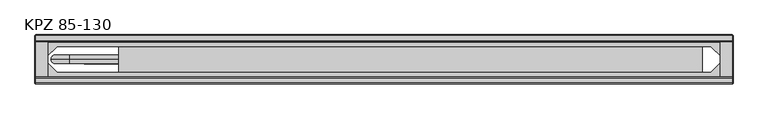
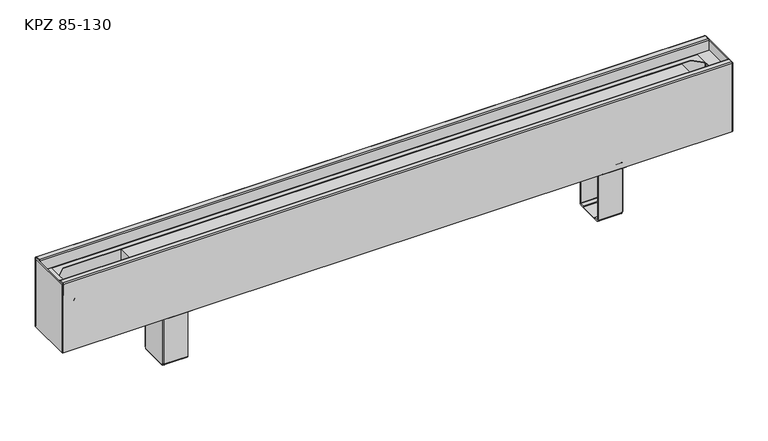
"""IFC4 building model written with IfcOpenShell, lengths in millimetres: proxy geometry, TECHNO_Конвектор напольный_Vita KPZ 85 : KPZ 85-130."""

from ifc_helpers import new_model, si_unit, point, frame, origin, place, context, project, spatial, polyline, circle_curve, ellipse_curve, trimmed, outline, extrude, source, transform, mapped, element, save
from ifc_brep_helpers import plane_surface, cylinder_surface, revolved_surface, advanced_brep


def kpz_85_130_eb719850(model_context):
    return source(origin(), model_context, "Body", "SolidModel", [
        advanced_brep(
        [(409.7, -116.8, 1.5), (409.7, -114.5, 3.8), (409.7, -114.5, 4.9), (409.7, -116.0, 4.9), (409.7, -116.0, 3.8), (409.7, -116.8, 3.0), (409.7, -124.5, 3.0), (409.7, -124.5, 1.5), (409.7, -117.6, 1.5), (409.7, -114.5, 97.7), (409.7, -113.7, 98.5), (409.7, -101.0, 98.5), (409.7, -101.0, 100.0), (409.7, -113.7, 100.0), (409.7, -116.0, 97.7), (409.7, -116.0, 95.5), (409.7, -114.5, 95.5), (409.7, -170.5, 3.8), (409.7, -168.2, 1.5), (409.7, -167.4, 1.5), (409.7, -160.5, 1.5), (409.7, -160.5, 3.0), (409.7, -168.2, 3.0), (409.7, -169.0, 3.8), (409.7, -169.0, 4.9), (409.7, -170.5, 4.9), (409.7, -169.0, 97.7), (409.7, -171.3, 100.0), (409.7, -184.0, 100.0), (409.7, -184.0, 98.5), (409.7, -171.3, 98.5), (409.7, -170.5, 97.7), (409.7, -170.5, 95.5), (409.7, -169.0, 95.5), (367.0, -170.5, 97.7), (367.0, -171.3, 98.5), (367.0, -184.0, 98.5), (367.0, -184.0, 100.0), (367.0, -171.3, 100.0), (367.0, -169.0, 97.7), (367.0, -169.0, 3.8), (367.0, -168.2, 3.0), (367.0, -160.5, 3.0), (367.0, -160.5, 1.5), (367.0, -124.5, 1.5), (367.0, -124.5, 3.0), (367.0, -116.8, 3.0), (367.0, -116.0, 3.8), (367.0, -116.0, 97.7), (367.0, -113.7, 100.0), (367.0, -101.0, 100.0), (367.0, -101.0, 98.5), (367.0, -113.7, 98.5), (367.0, -114.5, 97.7), (367.0, -114.5, 3.8), (367.0, -116.8, 1.5), (367.0, -117.6, 1.5), (367.0, -117.6, 0.0), (367.0, -167.4, 0.0), (367.0, -167.4, 1.5), (367.0, -168.2, 1.5), (367.0, -170.5, 3.8), (410.5, -116.8, 95.5), (410.5, -168.2, 95.5), (412.0, -168.2, 95.5), (412.0, -116.8, 95.5), (412.0, -116.8, 4.9), (412.0, -117.6, 4.9), (410.5, -117.6, 4.9), (410.5, -116.8, 4.9), (410.5, -168.2, 4.9), (410.5, -167.4, 4.9), (412.0, -167.4, 4.9), (412.0, -168.2, 4.9), (410.5, -117.6, 2.3), (410.5, -167.4, 2.3), (412.0, -167.4, 2.3), (412.0, -117.6, 2.3), (409.7, -117.6, 0.0), (409.7, -167.4, 0.0)],
        [
            (0, 1, circle_curve(frame((409.7, -116.8, 3.8), z_axis=(1.0, 0.0, 0.0), x_axis=(0.0, -1.0, 0.0)), 2.3)),
            (1, 2),
            (2, 3),
            (3, 4),
            (4, 5, circle_curve(frame((409.7, -116.8, 3.8), z_axis=(-1.0, 0.0, 0.0), x_axis=(0.0, -1.0, 0.0)), 0.8)),
            (5, 6),
            (6, 7),
            (7, 8),
            (8, 0),
            (9, 10, circle_curve(frame((409.7, -113.7, 97.7), z_axis=(-1.0, 0.0, 0.0), x_axis=(0.0, -1.0, 0.0)), 0.8)),
            (10, 11),
            (11, 12),
            (12, 13),
            (13, 14, circle_curve(frame((409.7, -113.7, 97.7), z_axis=(1.0, 0.0, 0.0), x_axis=(0.0, -1.0, 0.0)), 2.3)),
            (14, 15),
            (15, 16),
            (16, 9),
            (17, 18, circle_curve(frame((409.7, -168.2, 3.8), z_axis=(1.0, 0.0, 0.0), x_axis=(0.0, -1.0, 0.0)), 2.3)),
            (18, 19),
            (19, 20),
            (20, 21),
            (21, 22),
            (22, 23, circle_curve(frame((409.7, -168.2, 3.8), z_axis=(-1.0, 0.0, 0.0), x_axis=(0.0, -1.0, 0.0)), 0.8)),
            (23, 24),
            (24, 25),
            (25, 17),
            (26, 27, circle_curve(frame((409.7, -171.3, 97.7), z_axis=(1.0, 0.0, 0.0), x_axis=(0.0, -1.0, 0.0)), 2.3)),
            (27, 28),
            (28, 29),
            (29, 30),
            (30, 31, circle_curve(frame((409.7, -171.3, 97.7), z_axis=(-1.0, 0.0, 0.0), x_axis=(0.0, -1.0, 0.0)), 0.8)),
            (31, 32),
            (32, 33),
            (33, 26),
            (34, 35, circle_curve(frame((367.0, -171.3, 97.7), z_axis=(1.0, 0.0, 0.0), x_axis=(0.0, -1.0, 0.0)), 0.8)),
            (35, 36),
            (36, 37),
            (37, 38),
            (38, 39, circle_curve(frame((367.0, -171.3, 97.7), z_axis=(-1.0, 0.0, 0.0), x_axis=(0.0, -1.0, 0.0)), 2.3)),
            (39, 40),
            (40, 41, circle_curve(frame((367.0, -168.2, 3.8), z_axis=(1.0, 0.0, 0.0), x_axis=(0.0, -1.0, 0.0)), 0.8)),
            (41, 42),
            (42, 43),
            (43, 44),
            (44, 45),
            (45, 46),
            (46, 47, circle_curve(frame((367.0, -116.8, 3.8), z_axis=(1.0, 0.0, 0.0), x_axis=(0.0, -1.0, 0.0)), 0.8)),
            (47, 48),
            (48, 49, circle_curve(frame((367.0, -113.7, 97.7), z_axis=(-1.0, 0.0, 0.0), x_axis=(0.0, -1.0, 0.0)), 2.3)),
            (49, 50),
            (50, 51),
            (51, 52),
            (52, 53, circle_curve(frame((367.0, -113.7, 97.7), z_axis=(1.0, 0.0, 0.0), x_axis=(0.0, -1.0, 0.0)), 0.8)),
            (53, 54),
            (54, 55, circle_curve(frame((367.0, -116.8, 3.8), z_axis=(-1.0, 0.0, 0.0), x_axis=(0.0, -1.0, 0.0)), 2.3)),
            (55, 56),
            (56, 57),
            (57, 58),
            (58, 59),
            (59, 60),
            (60, 61, circle_curve(frame((367.0, -168.2, 3.8), z_axis=(-1.0, 0.0, 0.0), x_axis=(0.0, -1.0, 0.0)), 2.3)),
            (61, 34),
            (30, 35),
            (34, 31),
            (29, 36),
            (28, 37),
            (27, 38),
            (26, 39),
            (33, 24),
            (23, 40),
            (22, 41),
            (5, 46),
            (45, 6),
            (4, 47),
            (3, 15),
            (14, 48),
            (13, 49),
            (12, 50),
            (11, 51),
            (10, 52),
            (9, 53),
            (16, 2),
            (1, 54),
            (0, 55),
            (8, 56),
            (17, 61),
            (60, 18),
            (25, 32),
            (21, 42),
            (20, 43),
            (59, 19),
            (44, 7),
            (15, 62, circle_curve(frame((409.7, -116.8, 95.5), z_axis=(0.0, 0.0, -1.0), x_axis=(-1.0, 0.0, 0.0)), 0.8)),
            (62, 63),
            (63, 33, circle_curve(frame((409.7, -168.2, 95.5), z_axis=(0.0, 0.0, -1.0), x_axis=(-1.0, 0.0, 0.0)), 0.8)),
            (32, 64, circle_curve(frame((409.7, -168.2, 95.5), z_axis=(0.0, 0.0, 1.0), x_axis=(-1.0, 0.0, 0.0)), 2.3)),
            (64, 65),
            (65, 16, circle_curve(frame((409.7, -116.8, 95.5), z_axis=(0.0, 0.0, 1.0), x_axis=(-1.0, 0.0, 0.0)), 2.3)),
            (2, 66, circle_curve(frame((409.7, -116.8, 4.9), z_axis=(0.0, 0.0, -1.0), x_axis=(-1.0, 0.0, 0.0)), 2.3)),
            (66, 67),
            (67, 68),
            (68, 69),
            (69, 3, circle_curve(frame((409.7, -116.8, 4.9), z_axis=(0.0, 0.0, 1.0), x_axis=(-1.0, 0.0, 0.0)), 0.8)),
            (24, 70, circle_curve(frame((409.7, -168.2, 4.9), z_axis=(0.0, 0.0, 1.0), x_axis=(-1.0, 0.0, 0.0)), 0.8)),
            (70, 71),
            (71, 72),
            (72, 73),
            (73, 25, circle_curve(frame((409.7, -168.2, 4.9), z_axis=(0.0, 0.0, -1.0), x_axis=(-1.0, 0.0, 0.0)), 2.3)),
            (69, 62),
            (68, 74),
            (74, 75),
            (75, 71),
            (70, 63),
            (64, 73),
            (72, 76),
            (76, 77),
            (77, 67),
            (66, 65),
            (8, 74, circle_curve(frame((409.7, -117.6, 2.3), z_axis=(0.0, -1.0, 0.0), x_axis=(-1.0, 0.0, 0.0)), 0.8)),
            (77, 78, circle_curve(frame((409.7, -117.6, 2.3), z_axis=(0.0, 1.0, 0.0), x_axis=(-1.0, 0.0, 0.0)), 2.3)),
            (78, 57),
            (58, 79),
            (79, 76, circle_curve(frame((409.7, -167.4, 2.3), z_axis=(0.0, -1.0, 0.0), x_axis=(-1.0, 0.0, 0.0)), 2.3)),
            (75, 19, circle_curve(frame((409.7, -167.4, 2.3), z_axis=(0.0, 1.0, 0.0), x_axis=(-1.0, 0.0, 0.0)), 0.8)),
            (20, 7),
            (79, 78),
        ],
        [
            plane_surface(frame((409.7, -172.1, 97.7), z_axis=(1.0, 0.0, 0.0), x_axis=(0.0, 0.0, 1.0))),
            plane_surface(frame((367.0, -172.1, 97.7), z_axis=(-1.0, 0.0, 0.0), x_axis=(0.0, 0.0, -1.0))),
            revolved_surface(polyline([(409.7, -172.10000000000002, 97.7), (367.0, -172.10000000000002, 97.7)]), (409.7, -171.3, 97.7), (1.0, 0.0, 0.0)),
            plane_surface(frame((367.0, -171.3, 98.5), z_axis=(0.0, 0.0, -1.0), x_axis=(1.0, 0.0, 0.0))),
            plane_surface(frame((367.0, -184.0, 98.5), z_axis=(0.0, -1.0, 0.0), x_axis=(1.0, 0.0, 0.0))),
            plane_surface(frame((367.0, -184.0, 100.0), z_axis=(0.0, 0.0, 1.0), x_axis=(1.0, 0.0, 0.0))),
            cylinder_surface(frame((409.7, -171.3, 97.7), z_axis=(-1.0, 0.0, 0.0), x_axis=(0.0, -1.0, 0.0)), 2.3),
            plane_surface(frame((367.0, -169.0, 97.7), z_axis=(0.0, 1.0, 3.6919938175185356e-12), x_axis=(1.0, 0.0, 0.0))),
            revolved_surface(polyline([(409.7, -169.0, 3.8), (367.0, -169.0, 3.8)]), (409.7, -168.2, 3.8), (1.0, 0.0, 0.0)),
            plane_surface(frame((367.0, -124.5, 3.0), z_axis=(0.0, 0.0, 1.0), x_axis=(1.0, 0.0, 0.0))),
            revolved_surface(polyline([(409.7, -117.6, 3.8), (367.0, -117.6, 3.8)]), (412.0, -116.8, 3.8), (1.0, 0.0, 0.0)),
            plane_surface(frame((367.0, -116.0, 3.8), z_axis=(0.0, -1.0, 0.0), x_axis=(1.0, 0.0, 0.0))),
            cylinder_surface(frame((412.0, -113.7, 97.7), z_axis=(-1.0, 0.0, 0.0), x_axis=(0.0, -1.0, 0.0)), 2.3),
            plane_surface(frame((367.0, -113.7, 100.0), z_axis=(0.0, 0.0, 1.0), x_axis=(1.0, 0.0, 0.0))),
            plane_surface(frame((367.0, -101.0, 100.0), z_axis=(0.0, 1.0, 0.0), x_axis=(1.0, 0.0, 0.0))),
            plane_surface(frame((367.0, -101.0, 98.5), z_axis=(0.0, 0.0, -1.0), x_axis=(1.0, 0.0, 0.0))),
            revolved_surface(polyline([(409.7, -114.5, 97.7), (367.0, -114.5, 97.7)]), (412.0, -113.7, 97.7), (1.0, 0.0, 0.0)),
            plane_surface(frame((367.0, -114.5, 97.7), z_axis=(0.0, 1.0, 0.0), x_axis=(1.0, 0.0, 0.0))),
            cylinder_surface(frame((412.0, -116.8, 3.8), z_axis=(-1.0, 0.0, 0.0), x_axis=(0.0, -1.0, 0.0)), 2.3),
            plane_surface(frame((367.0, -116.8, 1.5), z_axis=(0.0, 0.0, -1.0), x_axis=(1.0, 0.0, 0.0))),
            cylinder_surface(frame((409.7, -168.2, 3.8), z_axis=(-1.0, 0.0, 0.0), x_axis=(0.0, -1.0, 0.0)), 2.3),
            plane_surface(frame((367.0, -170.5, 3.8), z_axis=(0.0, -1.0, 0.0), x_axis=(1.0, 0.0, 0.0))),
            plane_surface(frame((367.0, -168.2, 3.0), z_axis=(0.0, 0.0, 1.0), x_axis=(1.0, 0.0, 0.0))),
            plane_surface(frame((367.0, -160.5, 3.0), z_axis=(0.0, 1.0, 0.0), x_axis=(1.0, 0.0, 0.0))),
            plane_surface(frame((367.0, -160.5, 1.5), z_axis=(0.0, 0.0, -1.0), x_axis=(1.0, 0.0, 0.0))),
            plane_surface(frame((367.0, -124.5, 1.5), z_axis=(0.0, -1.0, 0.0), x_axis=(1.0, 0.0, 0.0))),
            plane_surface(frame((409.7, -116.0, 95.5), z_axis=(0.0, 0.0, 1.0), x_axis=(0.0, -1.0, 0.0))),
            plane_surface(frame((409.7, -116.0, 4.9), z_axis=(0.0, 0.0, -1.0), x_axis=(0.0, 1.0, 0.0))),
            revolved_surface(polyline([(408.9, -116.8, 4.9), (408.9, -116.8, 95.5)]), (409.7, -116.8, 4.9), (0.0, 0.0, -1.0)),
            plane_surface(frame((410.5, -116.8, 95.5), z_axis=(-1.0, 0.0, 0.0), x_axis=(0.0, 0.0, -1.0))),
            plane_surface(frame((412.0, -117.6, 95.5), z_axis=(1.0, -4.3226800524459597e-10, 0.0), x_axis=(0.0, 0.0, -1.0))),
            cylinder_surface(frame((409.7, -116.8, 4.9), z_axis=(0.0, 0.0, 1.0), x_axis=(-1.0, 0.0, 0.0)), 2.3),
            cylinder_surface(frame((409.7, -168.2, 0.0), z_axis=(0.0, 0.0, 1.0), x_axis=(-1.0, 0.0, 0.0)), 2.3),
            revolved_surface(polyline([(408.9, -168.2, 4.9), (408.9, -168.2, 95.5)]), (409.7, -168.2, 0.0), (0.0, 0.0, -1.0)),
            plane_surface(frame((367.0, -117.6, 1.5), z_axis=(0.0, 1.0, 0.0), x_axis=(0.0, 0.0, 1.0))),
            plane_surface(frame((367.0, -167.4, 1.5), z_axis=(0.0, -1.0, 0.0), x_axis=(0.0, 0.0, -1.0))),
            plane_surface(frame((367.0, -117.6, 1.5), z_axis=(0.0, 0.0, 1.0), x_axis=(0.0, -1.0, 0.0))),
            revolved_surface(polyline([(408.9, -167.4, 2.3), (408.9, -117.6, 2.3)]), (409.7, -167.4, 2.3), (0.0, -1.0, 0.0)),
            cylinder_surface(frame((409.7, -167.4, 2.3), z_axis=(0.0, 1.0, 0.0), x_axis=(-1.0, 0.0, 0.0)), 2.3),
            plane_surface(frame((409.7, -117.6, 0.0), z_axis=(0.0, 0.0, -1.0), x_axis=(0.0, -1.0, 0.0))),
        ],
        [
            (0, [[1, 2, 3, 4, 5, 6, 7, 8, 9]]),
            (0, [[10, 11, 12, 13, 14, 15, 16, 17]]),
            (0, [[18, 19, 20, 21, 22, 23, 24, 25, 26]]),
            (0, [[27, 28, 29, 30, 31, 32, 33, 34]]),
            (1, [[35, 36, 37, 38, 39, 40, 41, 42, 43, 44, 45, 46, 47, 48, 49, 50, 51, 52, 53, 54, 55, 56, 57, 58, 59, 60, 61, 62]]),
            (2, [[-31, 63, -35, 64]]),
            (3, [[-30, 65, -36, -63]]),
            (4, [[-29, 66, -37, -65]]),
            (5, [[-28, 67, -38, -66]]),
            (6, [[-27, 68, -39, -67]]),
            (7, [[-40, -68, -34, 69, -24, 70]]),
            (8, [[-23, 71, -41, -70]]),
            (9, [[-6, 72, -46, 73]]),
            (10, [[-5, 74, -47, -72]]),
            (11, [[-48, -74, -4, 75, -15, 76]]),
            (12, [[-14, 77, -49, -76]]),
            (13, [[-13, 78, -50, -77]]),
            (14, [[-12, 79, -51, -78]]),
            (15, [[-11, 80, -52, -79]]),
            (16, [[-10, 81, -53, -80]]),
            (17, [[-54, -81, -17, 82, -2, 83]]),
            (18, [[-1, 84, -55, -83]]),
            (19, [[-84, -9, 85, -56]]),
            (20, [[-18, 86, -61, 87]]),
            (21, [[-62, -86, -26, 88, -32, -64]]),
            (22, [[-22, 89, -42, -71]]),
            (23, [[-21, 90, -43, -89]]),
            (24, [[-87, -60, 91, -19]]),
            (25, [[-7, -73, -45, 92]]),
            (26, [[93, 94, 95, -33, 96, 97, 98, -16]]),
            (27, [[99, 100, 101, 102, 103, -3]]),
            (27, [[104, 105, 106, 107, 108, -25]]),
            (28, [[-93, -75, -103, 109]]),
            (29, [[-94, -109, -102, 110, 111, 112, -105, 113]]),
            (30, [[-97, 114, -107, 115, 116, 117, -100, 118]]),
            (31, [[-98, -118, -99, -82]]),
            (32, [[-96, -88, -108, -114]]),
            (33, [[-95, -113, -104, -69]]),
            (34, [[-57, -85, 119, -110, -101, -117, 120, 121]]),
            (35, [[122, 123, -115, -106, -112, 124, -91, -59]]),
            (36, [[125, -92, -44, -90]]),
            (37, [[-119, -8, -125, -20, -124, -111]]),
            (38, [[-120, -116, -123, 126]]),
            (39, [[-121, -126, -122, -58]]),
        ],
    ),
        advanced_brep(
        [(-409.7, -168.2, 1.5), (-409.7, -170.5, 3.8), (-409.7, -170.5, 4.9), (-409.7, -169.0, 4.9), (-409.7, -169.0, 3.8), (-409.7, -168.2, 3.0), (-409.7, -160.5, 3.0), (-409.7, -160.5, 1.5), (-409.7, -167.4, 1.5), (-409.7, -170.5, 97.7), (-409.7, -171.3, 98.5), (-409.7, -184.0, 98.5), (-409.7, -184.0, 100.0), (-409.7, -171.3, 100.0), (-409.7, -169.0, 97.7), (-409.7, -169.0, 95.5), (-409.7, -170.5, 95.5), (-409.7, -114.5, 3.8), (-409.7, -116.8, 1.5), (-409.7, -117.6, 1.5), (-409.7, -124.5, 1.5), (-409.7, -124.5, 3.0), (-409.7, -116.8, 3.0), (-409.7, -116.0, 3.8), (-409.7, -116.0, 4.9), (-409.7, -114.5, 4.9), (-409.7, -116.0, 97.7), (-409.7, -113.7, 100.0), (-409.7, -101.0, 100.0), (-409.7, -101.0, 98.5), (-409.7, -113.7, 98.5), (-409.7, -114.5, 97.7), (-409.7, -114.5, 95.5), (-409.7, -116.0, 95.5), (-367.0, -114.5, 97.7), (-367.0, -113.7, 98.5), (-367.0, -101.0, 98.5), (-367.0, -101.0, 100.0), (-367.0, -113.7, 100.0), (-367.0, -116.0, 97.7), (-367.0, -116.0, 3.8), (-367.0, -116.8, 3.0), (-367.0, -124.5, 3.0), (-367.0, -124.5, 1.5), (-367.0, -160.5, 1.5), (-367.0, -160.5, 3.0), (-367.0, -168.2, 3.0), (-367.0, -169.0, 3.8), (-367.0, -169.0, 97.7), (-367.0, -171.3, 100.0), (-367.0, -184.0, 100.0), (-367.0, -184.0, 98.5), (-367.0, -171.3, 98.5), (-367.0, -170.5, 97.7), (-367.0, -170.5, 3.8), (-367.0, -168.2, 1.5), (-367.0, -167.4, 1.5), (-367.0, -167.4, 0.0), (-367.0, -117.6, 0.0), (-367.0, -117.6, 1.5), (-367.0, -116.8, 1.5), (-367.0, -114.5, 3.8), (-410.5, -168.2, 95.5), (-410.5, -116.8, 95.5), (-412.0, -116.8, 95.5), (-412.0, -168.2, 95.5), (-412.0, -168.2, 4.9), (-412.0, -167.4, 4.9), (-410.5, -167.4, 4.9), (-410.5, -168.2, 4.9), (-410.5, -116.8, 4.9), (-410.5, -117.6, 4.9), (-412.0, -117.6, 4.9), (-412.0, -116.8, 4.9), (-410.5, -167.4, 2.3), (-410.5, -117.6, 2.3), (-412.0, -117.6, 2.3), (-412.0, -167.4, 2.3), (-409.7, -167.4, 0.0), (-409.7, -117.6, 0.0)],
        [
            (0, 1, circle_curve(frame((-409.7, -168.2, 3.8), z_axis=(-1.0, 0.0, 0.0), x_axis=(0.0, 1.0, 0.0)), 2.3)),
            (1, 2),
            (2, 3),
            (3, 4),
            (4, 5, circle_curve(frame((-409.7, -168.2, 3.8), z_axis=(1.0, 0.0, 0.0), x_axis=(0.0, 1.0, 0.0)), 0.8)),
            (5, 6),
            (6, 7),
            (7, 8),
            (8, 0),
            (9, 10, circle_curve(frame((-409.7, -171.3, 97.7), z_axis=(1.0, 0.0, 0.0), x_axis=(0.0, 1.0, 0.0)), 0.8)),
            (10, 11),
            (11, 12),
            (12, 13),
            (13, 14, circle_curve(frame((-409.7, -171.3, 97.7), z_axis=(-1.0, 0.0, 0.0), x_axis=(0.0, 1.0, 0.0)), 2.3)),
            (14, 15),
            (15, 16),
            (16, 9),
            (17, 18, circle_curve(frame((-409.7, -116.8, 3.8), z_axis=(-1.0, 0.0, 0.0), x_axis=(0.0, 1.0, 0.0)), 2.3)),
            (18, 19),
            (19, 20),
            (20, 21),
            (21, 22),
            (22, 23, circle_curve(frame((-409.7, -116.8, 3.8), z_axis=(1.0, 0.0, 0.0), x_axis=(0.0, 1.0, 0.0)), 0.8)),
            (23, 24),
            (24, 25),
            (25, 17),
            (26, 27, circle_curve(frame((-409.7, -113.7, 97.7), z_axis=(-1.0, 0.0, 0.0), x_axis=(0.0, 1.0, 0.0)), 2.3)),
            (27, 28),
            (28, 29),
            (29, 30),
            (30, 31, circle_curve(frame((-409.7, -113.7, 97.7), z_axis=(1.0, 0.0, 0.0), x_axis=(0.0, 1.0, 0.0)), 0.8)),
            (31, 32),
            (32, 33),
            (33, 26),
            (34, 35, circle_curve(frame((-367.0, -113.7, 97.7), z_axis=(-1.0, 0.0, 0.0), x_axis=(0.0, 1.0, 0.0)), 0.8)),
            (35, 36),
            (36, 37),
            (37, 38),
            (38, 39, circle_curve(frame((-367.0, -113.7, 97.7), z_axis=(1.0, 0.0, 0.0), x_axis=(0.0, 1.0, 0.0)), 2.3)),
            (39, 40),
            (40, 41, circle_curve(frame((-367.0, -116.8, 3.8), z_axis=(-1.0, 0.0, 0.0), x_axis=(0.0, 1.0, 0.0)), 0.8)),
            (41, 42),
            (42, 43),
            (43, 44),
            (44, 45),
            (45, 46),
            (46, 47, circle_curve(frame((-367.0, -168.2, 3.8), z_axis=(-1.0, 0.0, 0.0), x_axis=(0.0, 1.0, 0.0)), 0.8)),
            (47, 48),
            (48, 49, circle_curve(frame((-367.0, -171.3, 97.7), z_axis=(1.0, 0.0, 0.0), x_axis=(0.0, 1.0, 0.0)), 2.3)),
            (49, 50),
            (50, 51),
            (51, 52),
            (52, 53, circle_curve(frame((-367.0, -171.3, 97.7), z_axis=(-1.0, 0.0, 0.0), x_axis=(0.0, 1.0, 0.0)), 0.8)),
            (53, 54),
            (54, 55, circle_curve(frame((-367.0, -168.2, 3.8), z_axis=(1.0, 0.0, 0.0), x_axis=(0.0, 1.0, 0.0)), 2.3)),
            (55, 56),
            (56, 57),
            (57, 58),
            (58, 59),
            (59, 60),
            (60, 61, circle_curve(frame((-367.0, -116.8, 3.8), z_axis=(1.0, 0.0, 0.0), x_axis=(0.0, 1.0, 0.0)), 2.3)),
            (61, 34),
            (30, 35),
            (34, 31),
            (29, 36),
            (28, 37),
            (27, 38),
            (26, 39),
            (33, 24),
            (23, 40),
            (22, 41),
            (5, 46),
            (45, 6),
            (4, 47),
            (3, 15),
            (14, 48),
            (13, 49),
            (12, 50),
            (11, 51),
            (10, 52),
            (9, 53),
            (16, 2),
            (1, 54),
            (0, 55),
            (8, 56),
            (17, 61),
            (60, 18),
            (25, 32),
            (21, 42),
            (20, 43),
            (59, 19),
            (44, 7),
            (15, 62, circle_curve(frame((-409.7, -168.2, 95.5), z_axis=(0.0, 0.0, -1.0), x_axis=(1.0, 0.0, 0.0)), 0.8)),
            (62, 63),
            (63, 33, circle_curve(frame((-409.7, -116.8, 95.5), z_axis=(0.0, 0.0, -1.0), x_axis=(1.0, 0.0, 0.0)), 0.8)),
            (32, 64, circle_curve(frame((-409.7, -116.8, 95.5), z_axis=(0.0, 0.0, 1.0), x_axis=(1.0, 0.0, 0.0)), 2.3)),
            (64, 65),
            (65, 16, circle_curve(frame((-409.7, -168.2, 95.5), z_axis=(0.0, 0.0, 1.0), x_axis=(1.0, 0.0, 0.0)), 2.3)),
            (2, 66, circle_curve(frame((-409.7, -168.2, 4.9), z_axis=(0.0, 0.0, -1.0), x_axis=(1.0, 0.0, 0.0)), 2.3)),
            (66, 67),
            (67, 68),
            (68, 69),
            (69, 3, circle_curve(frame((-409.7, -168.2, 4.9), z_axis=(0.0, 0.0, 1.0), x_axis=(1.0, 0.0, 0.0)), 0.8)),
            (24, 70, circle_curve(frame((-409.7, -116.8, 4.9), z_axis=(0.0, 0.0, 1.0), x_axis=(1.0, 0.0, 0.0)), 0.8)),
            (70, 71),
            (71, 72),
            (72, 73),
            (73, 25, circle_curve(frame((-409.7, -116.8, 4.9), z_axis=(0.0, 0.0, -1.0), x_axis=(1.0, 0.0, 0.0)), 2.3)),
            (69, 62),
            (68, 74),
            (74, 75),
            (75, 71),
            (70, 63),
            (64, 73),
            (72, 76),
            (76, 77),
            (77, 67),
            (66, 65),
            (8, 74, circle_curve(frame((-409.7, -167.4, 2.3), z_axis=(0.0, 1.0, 0.0), x_axis=(1.0, 0.0, 0.0)), 0.8)),
            (77, 78, circle_curve(frame((-409.7, -167.4, 2.3), z_axis=(0.0, -1.0, 0.0), x_axis=(1.0, 0.0, 0.0)), 2.3)),
            (78, 57),
            (58, 79),
            (79, 76, circle_curve(frame((-409.7, -117.6, 2.3), z_axis=(0.0, 1.0, 0.0), x_axis=(1.0, 0.0, 0.0)), 2.3)),
            (75, 19, circle_curve(frame((-409.7, -117.6, 2.3), z_axis=(0.0, -1.0, 0.0), x_axis=(1.0, 0.0, 0.0)), 0.8)),
            (20, 7),
            (79, 78),
        ],
        [
            plane_surface(frame((-409.7, -112.9, 97.7), z_axis=(-1.0, 0.0, 0.0), x_axis=(0.0, 0.0, 1.0))),
            plane_surface(frame((-367.0, -112.9, 97.7), z_axis=(1.0, 0.0, 0.0), x_axis=(0.0, 0.0, -1.0))),
            revolved_surface(polyline([(-409.7, -112.9, 97.7), (-367.0, -112.9, 97.7)]), (-409.7, -113.7, 97.7), (-1.0, 0.0, 0.0)),
            plane_surface(frame((-367.0, -113.7, 98.5), z_axis=(0.0, 0.0, -1.0), x_axis=(-1.0, 0.0, 0.0))),
            plane_surface(frame((-367.0, -101.0, 98.5), z_axis=(0.0, 1.0, 0.0), x_axis=(-1.0, 0.0, 0.0))),
            plane_surface(frame((-367.0, -101.0, 100.0), z_axis=(0.0, 0.0, 1.0), x_axis=(-1.0, 0.0, 0.0))),
            cylinder_surface(frame((-409.7, -113.7, 97.7), z_axis=(1.0, 0.0, 0.0), x_axis=(0.0, 1.0, 0.0)), 2.3),
            plane_surface(frame((-367.0, -116.0, 97.7), z_axis=(0.0, -1.0, 3.6919938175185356e-12), x_axis=(-1.0, 0.0, 0.0))),
            revolved_surface(polyline([(-409.7, -116.0, 3.8), (-367.0, -116.0, 3.8)]), (-409.7, -116.8, 3.8), (-1.0, 0.0, 0.0)),
            plane_surface(frame((-367.0, -160.5, 3.0), z_axis=(0.0, 0.0, 1.0), x_axis=(-1.0, 0.0, 0.0))),
            revolved_surface(polyline([(-409.7, -167.39999999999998, 3.8), (-367.0, -167.39999999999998, 3.8)]), (-412.0, -168.2, 3.8), (-1.0, 0.0, 0.0)),
            plane_surface(frame((-367.0, -169.0, 3.8), z_axis=(0.0, 1.0, 0.0), x_axis=(-1.0, 0.0, 0.0))),
            cylinder_surface(frame((-412.0, -171.3, 97.7), z_axis=(1.0, 0.0, 0.0), x_axis=(0.0, 1.0, 0.0)), 2.3),
            plane_surface(frame((-367.0, -171.3, 100.0), z_axis=(0.0, 0.0, 1.0), x_axis=(-1.0, 0.0, 0.0))),
            plane_surface(frame((-367.0, -184.0, 100.0), z_axis=(0.0, -1.0, 0.0), x_axis=(-1.0, 0.0, 0.0))),
            plane_surface(frame((-367.0, -184.0, 98.5), z_axis=(0.0, 0.0, -1.0), x_axis=(-1.0, 0.0, 0.0))),
            revolved_surface(polyline([(-409.7, -170.5, 97.7), (-367.0, -170.5, 97.7)]), (-412.0, -171.3, 97.7), (-1.0, 0.0, 0.0)),
            plane_surface(frame((-367.0, -170.5, 97.7), z_axis=(0.0, -1.0, 0.0), x_axis=(-1.0, 0.0, 0.0))),
            cylinder_surface(frame((-412.0, -168.2, 3.8), z_axis=(1.0, 0.0, 0.0), x_axis=(0.0, 1.0, 0.0)), 2.3),
            plane_surface(frame((-367.0, -168.2, 1.5), z_axis=(0.0, 0.0, -1.0), x_axis=(-1.0, 0.0, 0.0))),
            cylinder_surface(frame((-409.7, -116.8, 3.8), z_axis=(1.0, 0.0, 0.0), x_axis=(0.0, 1.0, 0.0)), 2.3),
            plane_surface(frame((-367.0, -114.5, 3.8), z_axis=(0.0, 1.0, 0.0), x_axis=(-1.0, 0.0, 0.0))),
            plane_surface(frame((-367.0, -116.8, 3.0), z_axis=(0.0, 0.0, 1.0), x_axis=(-1.0, 0.0, 0.0))),
            plane_surface(frame((-367.0, -124.5, 3.0), z_axis=(0.0, -1.0, 0.0), x_axis=(-1.0, 0.0, 0.0))),
            plane_surface(frame((-367.0, -124.5, 1.5), z_axis=(0.0, 0.0, -1.0), x_axis=(-1.0, 0.0, 0.0))),
            plane_surface(frame((-367.0, -160.5, 1.5), z_axis=(0.0, 1.0, 0.0), x_axis=(-1.0, 0.0, 0.0))),
            plane_surface(frame((-409.7, -169.0, 95.5), z_axis=(0.0, 0.0, 1.0), x_axis=(0.0, 1.0, 0.0))),
            plane_surface(frame((-409.7, -169.0, 4.9), z_axis=(0.0, 0.0, -1.0), x_axis=(0.0, -1.0, 0.0))),
            revolved_surface(polyline([(-408.9, -168.2, 4.9), (-408.9, -168.2, 95.5)]), (-409.7, -168.2, 4.9), (0.0, 0.0, -1.0)),
            plane_surface(frame((-410.5, -168.2, 95.5), z_axis=(1.0, 0.0, 0.0), x_axis=(0.0, 0.0, -1.0))),
            plane_surface(frame((-412.0, -167.4, 95.5), z_axis=(-1.0, 4.322648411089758e-10, 0.0), x_axis=(0.0, 0.0, -1.0))),
            cylinder_surface(frame((-409.7, -168.2, 4.9), z_axis=(0.0, 0.0, 1.0), x_axis=(1.0, 0.0, 0.0)), 2.3),
            cylinder_surface(frame((-409.7, -116.8, 0.0), z_axis=(0.0, 0.0, 1.0), x_axis=(1.0, 0.0, 0.0)), 2.3),
            revolved_surface(polyline([(-408.9, -116.8, 4.9), (-408.9, -116.8, 95.5)]), (-409.7, -116.8, 0.0), (0.0, 0.0, -1.0)),
            plane_surface(frame((-367.0, -167.4, 1.5), z_axis=(0.0, -1.0, 0.0), x_axis=(0.0, 0.0, 1.0))),
            plane_surface(frame((-367.0, -117.6, 1.5), z_axis=(0.0, 1.0, 0.0), x_axis=(0.0, 0.0, -1.0))),
            plane_surface(frame((-367.0, -167.4, 1.5), z_axis=(0.0, 0.0, 1.0), x_axis=(0.0, 1.0, 0.0))),
            revolved_surface(polyline([(-408.9, -117.6, 2.3), (-408.9, -167.4, 2.3)]), (-409.7, -117.6, 2.3), (0.0, 1.0, 0.0)),
            cylinder_surface(frame((-409.7, -117.6, 2.3), z_axis=(0.0, -1.0, 0.0), x_axis=(1.0, 0.0, 0.0)), 2.3),
            plane_surface(frame((-409.7, -167.4, 0.0), z_axis=(0.0, 0.0, -1.0), x_axis=(0.0, 1.0, 0.0))),
        ],
        [
            (0, [[1, 2, 3, 4, 5, 6, 7, 8, 9]]),
            (0, [[10, 11, 12, 13, 14, 15, 16, 17]]),
            (0, [[18, 19, 20, 21, 22, 23, 24, 25, 26]]),
            (0, [[27, 28, 29, 30, 31, 32, 33, 34]]),
            (1, [[35, 36, 37, 38, 39, 40, 41, 42, 43, 44, 45, 46, 47, 48, 49, 50, 51, 52, 53, 54, 55, 56, 57, 58, 59, 60, 61, 62]]),
            (2, [[-31, 63, -35, 64]]),
            (3, [[-30, 65, -36, -63]]),
            (4, [[-29, 66, -37, -65]]),
            (5, [[-28, 67, -38, -66]]),
            (6, [[-27, 68, -39, -67]]),
            (7, [[-40, -68, -34, 69, -24, 70]]),
            (8, [[-23, 71, -41, -70]]),
            (9, [[-6, 72, -46, 73]]),
            (10, [[-5, 74, -47, -72]]),
            (11, [[-48, -74, -4, 75, -15, 76]]),
            (12, [[-14, 77, -49, -76]]),
            (13, [[-13, 78, -50, -77]]),
            (14, [[-12, 79, -51, -78]]),
            (15, [[-11, 80, -52, -79]]),
            (16, [[-10, 81, -53, -80]]),
            (17, [[-54, -81, -17, 82, -2, 83]]),
            (18, [[-1, 84, -55, -83]]),
            (19, [[-84, -9, 85, -56]]),
            (20, [[-18, 86, -61, 87]]),
            (21, [[-62, -86, -26, 88, -32, -64]]),
            (22, [[-22, 89, -42, -71]]),
            (23, [[-21, 90, -43, -89]]),
            (24, [[-87, -60, 91, -19]]),
            (25, [[-7, -73, -45, 92]]),
            (26, [[93, 94, 95, -33, 96, 97, 98, -16]]),
            (27, [[99, 100, 101, 102, 103, -3]]),
            (27, [[104, 105, 106, 107, 108, -25]]),
            (28, [[-93, -75, -103, 109]]),
            (29, [[-94, -109, -102, 110, 111, 112, -105, 113]]),
            (30, [[-97, 114, -107, 115, 116, 117, -100, 118]]),
            (31, [[-98, -118, -99, -82]]),
            (32, [[-96, -88, -108, -114]]),
            (33, [[-95, -113, -104, -69]]),
            (34, [[-57, -85, 119, -110, -101, -117, 120, 121]]),
            (35, [[122, 123, -115, -106, -112, 124, -91, -59]]),
            (36, [[125, -92, -44, -90]]),
            (37, [[-119, -8, -125, -20, -124, -111]]),
            (38, [[-120, -116, -123, 126]]),
            (39, [[-121, -126, -122, -58]]),
        ],
    ),
        advanced_brep(
        [(-455.64, -142.5, 186.5), (-455.64, -142.5, 171.5), (-540.0, -142.5, 186.5), (-540.0, -142.5, 171.5), (-557.5, -142.5, 154.0), (-572.5, -142.5, 154.0), (-572.5, -142.5, 100.0), (-557.5, -142.5, 100.0)],
        [
            (0, 1, circle_curve(frame((-455.64, -142.5, 179.0), z_axis=(1.0, 0.0, 0.0), x_axis=(0.0, 0.0, -1.0)), 7.5)),
            (1, 0, circle_curve(frame((-455.64, -142.5, 179.0), z_axis=(1.0, 0.0, 0.0), x_axis=(0.0, 0.0, -1.0)), 7.5)),
            (0, 2),
            (2, 3, circle_curve(frame((-540.0, -142.5, 179.0), z_axis=(1.0, 0.0, 0.0), x_axis=(0.0, 0.0, -1.0)), 7.5)),
            (3, 1),
            (3, 2, circle_curve(frame((-540.0, -142.5, 179.0), z_axis=(1.0, 0.0, 0.0), x_axis=(0.0, 0.0, -1.0)), 7.5)),
            (4, 3, circle_curve(frame((-540.0, -142.5, 154.0), z_axis=(0.0, 1.0, 0.0), x_axis=(0.0, 0.0, 1.0)), 17.5)),
            (2, 5, circle_curve(frame((-540.0, -142.5, 154.0), z_axis=(0.0, -1.0, 0.0), x_axis=(0.0, 0.0, 1.0)), 32.5)),
            (5, 4, circle_curve(frame((-565.0, -142.5, 154.0), z_axis=(0.0, 0.0, 1.0), x_axis=(1.0, 0.0, 0.0)), 7.5)),
            (4, 5, circle_curve(frame((-565.0, -142.5, 154.0), z_axis=(0.0, 0.0, 1.0), x_axis=(1.0, 0.0, 0.0)), 7.5)),
            (6, 7, circle_curve(frame((-565.0, -142.5, 100.0), z_axis=(0.0, 0.0, -1.0), x_axis=(1.0, 0.0, 0.0)), 7.5)),
            (7, 6, circle_curve(frame((-565.0, -142.5, 100.0), z_axis=(0.0, 0.0, -1.0), x_axis=(1.0, 0.0, 0.0)), 7.5)),
            (5, 6),
            (7, 4),
        ],
        [
            plane_surface(frame((-455.64, -142.5, 179.0), z_axis=(1.0, 0.0, 0.0), x_axis=(0.0, -1.0, 0.0))),
            cylinder_surface(frame((-455.64, -142.5, 179.0), z_axis=(1.0, 0.0, 0.0), x_axis=(0.0, 0.0, -1.0)), 7.5),
            revolved_surface(trimmed(ellipse_curve(frame((-540.0, -142.5, 179.0), z_axis=(1.0, 0.0, 0.0), x_axis=(0.0, 0.0, -1.0)), 7.5, 7.5), [point((-540.0, -142.5, 186.5))], [point((-540.0, -142.5, 171.5))], True, "CARTESIAN"), (-540.0, -142.5, 154.0), (0.0, -1.0, 0.0)),
            revolved_surface(trimmed(ellipse_curve(frame((-540.0, -142.5, 179.0), z_axis=(1.0, 0.0, 0.0), x_axis=(0.0, 0.0, -1.0)), 7.5, 7.5), [point((-540.0, -142.5, 171.5))], [point((-540.0, -142.5, 186.5))], True, "CARTESIAN"), (-540.0, -142.5, 154.0), (0.0, -1.0, 0.0)),
            plane_surface(frame((-565.0, -142.5, 100.0), z_axis=(0.0, 0.0, -1.0), x_axis=(0.0, -1.0, 0.0))),
            cylinder_surface(frame((-565.0, -142.5, 154.0), z_axis=(0.0, 0.0, 1.0), x_axis=(1.0, 0.0, 0.0)), 7.5),
        ],
        [
            (0, [[1, 2]]),
            (1, [[-1, 3, 4, 5]]),
            (1, [[-2, -5, 6, -3]]),
            (2, [[7, -4, 8, 9]]),
            (3, [[-8, -6, -7, 10]]),
            (4, [[11, 12]]),
            (5, [[-9, 13, -12, 14]]),
            (5, [[-10, -14, -11, -13]]),
        ],
    ),
        advanced_brep(
        [(-455.64, -142.5, 136.5), (-455.64, -142.5, 121.5), (-522.5, -142.5, 136.5), (-507.5, -142.5, 121.5), (-522.5, -142.5, 100.0), (-507.5, -142.5, 100.0)],
        [
            (0, 1, circle_curve(frame((-455.64, -142.5, 129.0), z_axis=(1.0, 0.0, 0.0), x_axis=(0.0, 0.0, -1.0)), 7.5)),
            (1, 0, circle_curve(frame((-455.64, -142.5, 129.0), z_axis=(1.0, 0.0, 0.0), x_axis=(0.0, 0.0, -1.0)), 7.5)),
            (0, 2),
            (2, 3, ellipse_curve(frame((-515.0, -142.5, 129.0), z_axis=(0.7071067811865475, 0.0, 0.7071067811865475), x_axis=(0.7071067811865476, 0.0, -0.7071067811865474)), 10.6066017, 7.5)),
            (3, 1),
            (3, 2, ellipse_curve(frame((-515.0, -142.5, 129.0), z_axis=(0.7071067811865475, 0.0, 0.7071067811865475), x_axis=(0.7071067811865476, 0.0, -0.7071067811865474)), 10.6066017, 7.5)),
            (4, 5, circle_curve(frame((-515.0, -142.5, 100.0), z_axis=(0.0, 0.0, -1.0), x_axis=(1.0, 0.0, 0.0)), 7.5)),
            (5, 4, circle_curve(frame((-515.0, -142.5, 100.0), z_axis=(0.0, 0.0, -1.0), x_axis=(1.0, 0.0, 0.0)), 7.5)),
            (2, 4),
            (5, 3),
        ],
        [
            plane_surface(frame((-455.64, -142.5, 129.0), z_axis=(1.0, 0.0, 0.0), x_axis=(0.0, -1.0, 0.0))),
            cylinder_surface(frame((-455.64, -142.5, 129.0), z_axis=(1.0, 0.0, 0.0), x_axis=(0.0, 0.0, -1.0)), 7.5),
            plane_surface(frame((-515.0, -142.5, 100.0), z_axis=(0.0, 0.0, -1.0), x_axis=(0.0, -1.0, 0.0))),
            cylinder_surface(frame((-515.0, -142.5, 129.0), z_axis=(0.0, 0.0, 1.0), x_axis=(1.0, 0.0, 0.0)), 7.5),
        ],
        [
            (0, [[1, 2]]),
            (1, [[-1, 3, 4, 5]]),
            (1, [[-2, -5, 6, -3]]),
            (2, [[7, 8]]),
            (3, [[-4, 9, -8, 10]]),
            (3, [[-6, -10, -7, -9]]),
        ],
    ),
        extrude(outline(polyline([(547.36, -117.5), (547.36, -167.5), (-455.64, -167.5), (-455.64, -117.5), (547.36, -117.5)])), frame((0.0, 0.0, 104.7), z_axis=(0.0, 0.0, 1.0), x_axis=(1.0, 0.0, 0.0)), (0.0, 0.0, 1.0), 100.0),
        extrude(outline(polyline([(-585.5004, -102.0), (-585.5004, -183.0), (-599.0, -183.0), (-599.0, -102.0), (-585.5004, -102.0)])), frame((0.0, 0.0, 101.83), z_axis=(0.0, 0.0, 1.0), x_axis=(1.0, 0.0, 0.0)), (0.0, 0.0, 1.0), 1.0002),
        extrude(outline(polyline([(585.5004, -102.0), (599.0, -102.0), (599.0, -183.0), (585.5004, -183.0), (585.5004, -102.0)])), frame((0.0, 0.0, 101.83), z_axis=(0.0, 0.0, 1.0), x_axis=(1.0, 0.0, 0.0)), (0.0, 0.0, 1.0), 1.0002),
        extrude(outline(polyline([(-599.0, -172.2), (-599.0, -112.8), (-578.0, -112.8), (-578.0, -172.2), (-599.0, -172.2)])), frame((0.0, 0.0, 208.83), z_axis=(0.0, 0.0, 1.0), x_axis=(1.0, 0.0, 0.0)), (0.0, 0.0, 1.0), 1.0002),
        extrude(outline(polyline([(599.0, -172.2), (578.0, -172.2), (578.0, -112.8), (599.0, -112.8), (599.0, -172.2)])), frame((0.0, 0.0, 208.83), z_axis=(0.0, 0.0, 1.0), x_axis=(1.0, 0.0, 0.0)), (0.0, 0.0, 1.0), 1.0002),
        advanced_brep(
        [(-598.2, -101.8, 230.83), (-598.2, -100.0, 229.03), (-598.2, -101.0, 229.03), (-598.2, -101.0, 207.83), (-598.2, -138.5, 207.83), (-598.2, -138.5, 208.83), (-598.2, -112.8, 208.83), (-598.2, -112.0, 209.63), (-598.2, -112.0, 229.03), (-598.2, -110.2, 230.83), (-598.2, -183.2, 230.83), (-598.2, -174.8, 230.83), (-598.2, -173.0, 229.03), (-598.2, -173.0, 209.63), (-598.2, -172.2, 208.83), (-598.2, -146.5, 208.83), (-598.2, -146.5, 207.83), (-598.2, -184.0, 207.83), (-598.2, -184.0, 229.03), (-598.2, -185.0, 229.03), (598.2, -101.8, 230.83), (598.2, -110.2, 230.83), (598.2, -112.0, 229.03), (598.2, -112.0, 209.63), (598.2, -112.8, 208.83), (598.2, -138.5, 208.83), (598.2, -138.5, 207.83), (598.2, -101.0, 207.83), (598.2, -101.0, 229.03), (598.2, -100.0, 229.03), (598.2, -183.2, 230.83), (598.2, -185.0, 229.03), (598.2, -184.0, 229.03), (598.2, -184.0, 207.83), (598.2, -146.5, 207.83), (598.2, -146.5, 208.83), (598.2, -172.2, 208.83), (598.2, -173.0, 209.63), (598.2, -173.0, 229.03), (598.2, -174.8, 230.83), (-580.3, -138.5, 208.83), (-561.8, -120.0, 208.83), (561.8, -120.0, 208.83), (580.3, -138.5, 208.83), (-580.3, -138.5, 207.83), (580.3, -138.5, 207.83), (561.8, -120.0, 207.83), (-561.8, -120.0, 207.83), (598.2, -100.0, 100.0), (-598.2, -100.0, 100.0), (-598.2, -185.0, 100.0), (598.2, -185.0, 100.0), (580.3, -146.5, 207.83), (-580.3, -146.5, 207.83), (-561.8, -165.0, 207.83), (561.8, -165.0, 207.83), (-580.3, -146.5, 208.83), (580.3, -146.5, 208.83), (561.8, -165.0, 208.83), (-561.8, -165.0, 208.83), (-600.0, -101.8, 229.03), (-600.0, -183.2, 229.03), (-599.0, -183.2, 229.03), (-599.0, -101.8, 229.03), (600.0, -183.2, 229.03), (600.0, -101.8, 229.03), (599.0, -101.8, 229.03), (599.0, -183.2, 229.03), (600.0, -101.8, 100.0), (600.0, -183.2, 100.0), (-600.0, -183.2, 100.0), (-600.0, -101.8, 100.0), (599.0, -101.8, 100.0), (598.2, -101.0, 100.0), (598.2, -113.0, 100.0), (-598.2, -113.0, 100.0), (-598.2, -101.0, 100.0), (-599.0, -101.8, 100.0), (-599.0, -183.2, 100.0), (-598.2, -184.0, 100.0), (-598.2, -172.0, 100.0), (598.2, -172.0, 100.0), (598.2, -184.0, 100.0), (599.0, -183.2, 100.0), (-598.2, -101.0, 100.83), (598.2, -101.0, 100.83), (598.2, -184.0, 100.83), (-598.2, -184.0, 100.83), (-598.2, -113.0, 100.83), (598.2, -113.0, 100.83), (598.2, -172.0, 100.83), (-598.2, -172.0, 100.83)],
        [
            (0, 1, circle_curve(frame((-598.2, -101.8, 229.03), z_axis=(-1.0, 0.0, 0.0), x_axis=(0.0, 1.0, 0.0)), 1.8)),
            (1, 2),
            (2, 3),
            (3, 4),
            (4, 5),
            (5, 6),
            (6, 7, circle_curve(frame((-598.2, -112.8, 209.63), z_axis=(1.0, 0.0, 0.0), x_axis=(0.0, 1.0, 0.0)), 0.8)),
            (7, 8),
            (8, 9, circle_curve(frame((-598.2, -110.2, 229.03), z_axis=(-1.0, 0.0, 0.0), x_axis=(0.0, 1.0, 0.0)), 1.8)),
            (9, 0),
            (10, 11),
            (11, 12, circle_curve(frame((-598.2, -174.8, 229.03), z_axis=(-1.0, 0.0, 0.0), x_axis=(0.0, 1.0, 0.0)), 1.8)),
            (12, 13),
            (13, 14, circle_curve(frame((-598.2, -172.2, 209.63), z_axis=(1.0, 0.0, 0.0), x_axis=(0.0, 1.0, 0.0)), 0.8)),
            (14, 15),
            (15, 16),
            (16, 17),
            (17, 18),
            (18, 19),
            (19, 10, circle_curve(frame((-598.2, -183.2, 229.03), z_axis=(-1.0, 0.0, 0.0), x_axis=(0.0, 1.0, 0.0)), 1.8)),
            (20, 21),
            (21, 22, circle_curve(frame((598.2, -110.2, 229.03), z_axis=(1.0, 0.0, 0.0), x_axis=(0.0, 1.0, 0.0)), 1.8)),
            (22, 23),
            (23, 24, circle_curve(frame((598.2, -112.8, 209.63), z_axis=(-1.0, 0.0, 0.0), x_axis=(0.0, 1.0, 0.0)), 0.8)),
            (24, 25),
            (25, 26),
            (26, 27),
            (27, 28),
            (28, 29),
            (29, 20, circle_curve(frame((598.2, -101.8, 229.03), z_axis=(1.0, 0.0, 0.0), x_axis=(0.0, 1.0, 0.0)), 1.8)),
            (30, 31, circle_curve(frame((598.2, -183.2, 229.03), z_axis=(1.0, 0.0, 0.0), x_axis=(0.0, 1.0, 0.0)), 1.8)),
            (31, 32),
            (32, 33),
            (33, 34),
            (34, 35),
            (35, 36),
            (36, 37, circle_curve(frame((598.2, -172.2, 209.63), z_axis=(-1.0, 0.0, 0.0), x_axis=(0.0, 1.0, 0.0)), 0.8)),
            (37, 38),
            (38, 39, circle_curve(frame((598.2, -174.8, 229.03), z_axis=(1.0, 0.0, 0.0), x_axis=(0.0, 1.0, 0.0)), 1.8)),
            (39, 30),
            (9, 21),
            (20, 0),
            (8, 22),
            (7, 23),
            (6, 24),
            (5, 40),
            (40, 41),
            (41, 42),
            (42, 43),
            (43, 25),
            (4, 44),
            (44, 40),
            (43, 45),
            (45, 26),
            (45, 46),
            (46, 47),
            (47, 44),
            (3, 27),
            (1, 29),
            (29, 48),
            (48, 49),
            (49, 1),
            (19, 31),
            (30, 10),
            (19, 50),
            (50, 51),
            (51, 31),
            (52, 34),
            (33, 17),
            (16, 53),
            (53, 54),
            (54, 55),
            (55, 52),
            (15, 56),
            (56, 53),
            (52, 57),
            (57, 35),
            (14, 36),
            (57, 58),
            (58, 59),
            (59, 56),
            (13, 37),
            (12, 38),
            (11, 39),
            (42, 46),
            (41, 47),
            (58, 55),
            (54, 59),
            (1, 60, circle_curve(frame((-598.2, -101.8, 229.03), z_axis=(0.0, 0.0, 1.0), x_axis=(1.0, 0.0, 0.0)), 1.8)),
            (60, 61),
            (61, 19, circle_curve(frame((-598.2, -183.2, 229.03), z_axis=(0.0, 0.0, 1.0), x_axis=(1.0, 0.0, 0.0)), 1.8)),
            (18, 62, circle_curve(frame((-598.2, -183.2, 229.03), z_axis=(0.0, 0.0, -1.0), x_axis=(1.0, 0.0, 0.0)), 0.8)),
            (62, 63),
            (63, 2, circle_curve(frame((-598.2, -101.8, 229.03), z_axis=(0.0, 0.0, -1.0), x_axis=(1.0, 0.0, 0.0)), 0.8)),
            (31, 64, circle_curve(frame((598.2, -183.2, 229.03), z_axis=(0.0, 0.0, 1.0), x_axis=(1.0, 0.0, 0.0)), 1.8)),
            (64, 65),
            (65, 29, circle_curve(frame((598.2, -101.8, 229.03), z_axis=(0.0, 0.0, 1.0), x_axis=(1.0, 0.0, 0.0)), 1.8)),
            (28, 66, circle_curve(frame((598.2, -101.8, 229.03), z_axis=(0.0, 0.0, -1.0), x_axis=(1.0, 0.0, 0.0)), 0.8)),
            (66, 67),
            (67, 32, circle_curve(frame((598.2, -183.2, 229.03), z_axis=(0.0, 0.0, -1.0), x_axis=(1.0, 0.0, 0.0)), 0.8)),
            (48, 68, circle_curve(frame((598.2, -101.8, 100.0), z_axis=(0.0, 0.0, -1.0), x_axis=(1.0, 0.0, 0.0)), 1.8)),
            (68, 69),
            (69, 51, circle_curve(frame((598.2, -183.2, 100.0), z_axis=(0.0, 0.0, -1.0), x_axis=(1.0, 0.0, 0.0)), 1.8)),
            (50, 70, circle_curve(frame((-598.2, -183.2, 100.0), z_axis=(0.0, 0.0, -1.0), x_axis=(1.0, 0.0, 0.0)), 1.8)),
            (70, 71),
            (71, 49, circle_curve(frame((-598.2, -101.8, 100.0), z_axis=(0.0, 0.0, -1.0), x_axis=(1.0, 0.0, 0.0)), 1.8)),
            (72, 73, circle_curve(frame((598.2, -101.8, 100.0), z_axis=(0.0, 0.0, 1.0), x_axis=(1.0, 0.0, 0.0)), 0.8)),
            (73, 74),
            (74, 75),
            (75, 76),
            (76, 77, circle_curve(frame((-598.2, -101.8, 100.0), z_axis=(0.0, 0.0, 1.0), x_axis=(1.0, 0.0, 0.0)), 0.8)),
            (77, 78),
            (78, 79, circle_curve(frame((-598.2, -183.2, 100.0), z_axis=(0.0, 0.0, 1.0), x_axis=(1.0, 0.0, 0.0)), 0.8)),
            (79, 80),
            (80, 81),
            (81, 82),
            (82, 83, circle_curve(frame((598.2, -183.2, 100.0), z_axis=(0.0, 0.0, 1.0), x_axis=(1.0, 0.0, 0.0)), 0.8)),
            (83, 72),
            (71, 60),
            (63, 77),
            (76, 84),
            (84, 3),
            (84, 85),
            (85, 27),
            (85, 73),
            (72, 66),
            (83, 67),
            (64, 69),
            (68, 65),
            (82, 86),
            (86, 33),
            (86, 87),
            (87, 17),
            (87, 79),
            (78, 62),
            (70, 61),
            (88, 89),
            (89, 85),
            (84, 88),
            (90, 91),
            (91, 87),
            (86, 90),
            (74, 89),
            (88, 75),
            (80, 91),
            (90, 81),
        ],
        [
            plane_surface(frame((-598.2, -110.2, 230.83), z_axis=(-1.0, 0.0, 0.0), x_axis=(0.0, 1.0, 0.0))),
            plane_surface(frame((598.2, -110.2, 230.83), z_axis=(1.0, 0.0, 0.0), x_axis=(0.0, -1.0, 0.0))),
            plane_surface(frame((598.2, -101.8, 230.83), z_axis=(0.0, 0.0, 1.0), x_axis=(-1.0, 0.0, 0.0))),
            cylinder_surface(frame((-598.2, -110.2, 229.03), z_axis=(1.0, 0.0, 0.0), x_axis=(0.0, 1.0, 0.0)), 1.8),
            plane_surface(frame((598.2, -112.0, 229.03), z_axis=(0.0, -1.0, 0.0), x_axis=(-1.0, 0.0, 0.0))),
            revolved_surface(polyline([(-598.2, -112.0, 209.63), (598.2, -112.0, 209.63)]), (-598.2, -112.8, 209.63), (-1.0, 0.0, 0.0)),
            plane_surface(frame((598.2, -112.8, 208.83), z_axis=(0.0, 0.0, 1.0), x_axis=(-1.0, 0.0, 0.0))),
            plane_surface(frame((598.2, -138.5, 208.83), z_axis=(0.0, -1.0, 0.0), x_axis=(-1.0, 0.0, 0.0))),
            plane_surface(frame((598.2, -138.5, 207.83), z_axis=(0.0, 0.0, -1.0), x_axis=(-1.0, 0.0, 0.0))),
            plane_surface(frame((598.2, -100.0, 207.83), z_axis=(0.0, 1.0, 0.0), x_axis=(-1.0, 0.0, 0.0))),
            cylinder_surface(frame((-598.2, -101.8, 229.03), z_axis=(1.0, 0.0, 0.0), x_axis=(0.0, 1.0, 0.0)), 1.8),
            cylinder_surface(frame((0.0, -183.2, 229.03), z_axis=(1.0, 0.0, 0.0), x_axis=(0.0, 1.0, 0.0)), 1.8),
            plane_surface(frame((598.2, -185.0, 229.03), z_axis=(0.0, -1.0, 0.0), x_axis=(-1.0, 0.0, 0.0))),
            plane_surface(frame((598.2, -185.0, 207.83), z_axis=(0.0, 0.0, -1.0), x_axis=(-1.0, 0.0, 0.0))),
            plane_surface(frame((598.2, -146.5, 207.83), z_axis=(0.0, 1.0, 0.0), x_axis=(-1.0, 0.0, 0.0))),
            plane_surface(frame((598.2, -146.5, 208.83), z_axis=(0.0, 0.0, 1.0), x_axis=(-1.0, 0.0, 0.0))),
            revolved_surface(polyline([(-598.2, -171.39999999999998, 209.63), (598.2, -171.39999999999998, 209.63)]), (0.0, -172.2, 209.63), (-1.0, 0.0, 0.0)),
            plane_surface(frame((598.2, -173.0, 209.63), z_axis=(0.0, 1.0, 0.0), x_axis=(-1.0, 0.0, 0.0))),
            cylinder_surface(frame((0.0, -174.8, 229.03), z_axis=(1.0, 0.0, 0.0), x_axis=(0.0, 1.0, 0.0)), 1.8),
            plane_surface(frame((598.2, -174.8, 230.83), z_axis=(0.0, 0.0, 1.0), x_axis=(-1.0, 0.0, 0.0))),
            plane_surface(frame((580.3, -138.5, 208.83), z_axis=(-0.7071067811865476, -0.7071067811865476, 0.0), x_axis=(0.0, 0.0, -1.0))),
            plane_surface(frame((561.8, -120.0, 208.83), z_axis=(0.0, -1.0, 0.0), x_axis=(0.0, 0.0, -1.0))),
            plane_surface(frame((-561.8, -120.0, 208.83), z_axis=(0.7071067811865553, -0.7071067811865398, 0.0), x_axis=(0.0, 0.0, -1.0))),
            plane_surface(frame((-561.8, -165.0, 208.83), z_axis=(0.0, 1.0, 0.0), x_axis=(0.0, 0.0, -1.0))),
            plane_surface(frame((561.8, -165.0, 208.83), z_axis=(-0.7071067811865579, 0.7071067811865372, 0.0), x_axis=(0.0, 0.0, -1.0))),
            plane_surface(frame((-580.3, -146.5, 208.83), z_axis=(0.7071067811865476, 0.7071067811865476, 0.0), x_axis=(0.0, 0.0, -1.0))),
            plane_surface(frame((-598.2, -100.0, 229.03), z_axis=(0.0, 0.0, 1.0), x_axis=(-1.0, 0.0, 0.0))),
            plane_surface(frame((-598.2, -100.0, 100.0), z_axis=(0.0, 0.0, -1.0), x_axis=(1.0, 0.0, 0.0))),
            cylinder_surface(frame((-598.2, -101.8, 100.0), z_axis=(0.0, 0.0, 1.0), x_axis=(1.0, 0.0, 0.0)), 1.8),
            revolved_surface(polyline([(-597.4000000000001, -101.8, 100.0), (-597.4000000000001, -101.8, 229.03)]), (-598.2, -101.8, 0.0), (0.0, 0.0, -1.0)),
            plane_surface(frame((-598.2, -101.0, 229.03), z_axis=(0.0, -1.0, 0.0), x_axis=(0.0, 0.0, -1.0))),
            revolved_surface(polyline([(599.0, -101.8, 100.0), (599.0, -101.8, 229.03)]), (598.2, -101.8, 0.0), (0.0, 0.0, -1.0)),
            plane_surface(frame((599.0, -101.8, 229.03), z_axis=(-1.0, 0.0, 0.0), x_axis=(0.0, 0.0, -1.0))),
            plane_surface(frame((600.0, -183.2, 229.03), z_axis=(1.0, 0.0, 0.0), x_axis=(0.0, 0.0, -1.0))),
            cylinder_surface(frame((598.2, -101.8, 100.0), z_axis=(0.0, 0.0, 1.0), x_axis=(1.0, 0.0, 0.0)), 1.8),
            cylinder_surface(frame((598.2, -183.2, 100.0), z_axis=(0.0, 0.0, 1.0), x_axis=(1.0, 0.0, 0.0)), 1.8),
            revolved_surface(polyline([(599.0, -183.2, 100.0), (599.0, -183.2, 229.03)]), (598.2, -183.2, 0.0), (0.0, 0.0, -1.0)),
            plane_surface(frame((598.2, -184.0, 229.03), z_axis=(0.0, 1.0, 0.0), x_axis=(0.0, 0.0, -1.0))),
            revolved_surface(polyline([(-597.4000000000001, -183.2, 100.0), (-597.4000000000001, -183.2, 229.03)]), (-598.2, -183.2, 0.0), (0.0, 0.0, -1.0)),
            plane_surface(frame((-600.0, -101.8, 229.03), z_axis=(-1.0, 0.0, 0.0), x_axis=(0.0, 0.0, -1.0))),
            cylinder_surface(frame((-598.2, -183.2, 100.0), z_axis=(0.0, 0.0, 1.0), x_axis=(1.0, 0.0, 0.0)), 1.8),
            plane_surface(frame((-599.0, -183.2, 229.03), z_axis=(1.0, 0.0, 0.0), x_axis=(0.0, 0.0, -1.0))),
            plane_surface(frame((598.2, -113.0, 100.83), z_axis=(0.0, 0.0, 1.0), x_axis=(1.0, 0.0, 0.0))),
            plane_surface(frame((-598.2, -113.0, 100.83), z_axis=(0.0, -1.0, 0.0), x_axis=(0.0, 0.0, -1.0))),
            plane_surface(frame((598.2, -113.0, 100.83), z_axis=(1.0, 0.0, 0.0), x_axis=(0.0, 0.0, -1.0))),
            plane_surface(frame((-598.2, -101.0, 100.83), z_axis=(-1.0, 0.0, 0.0), x_axis=(0.0, 0.0, -1.0))),
            plane_surface(frame((598.2, -172.0, 100.83), z_axis=(0.0, 1.0, 0.0), x_axis=(0.0, 0.0, -1.0))),
            plane_surface(frame((-598.2, -172.0, 100.83), z_axis=(-1.0, 0.0, 0.0), x_axis=(0.0, 0.0, -1.0))),
            plane_surface(frame((598.2, -184.0, 100.83), z_axis=(1.0, 0.0, 0.0), x_axis=(0.0, 0.0, -1.0))),
        ],
        [
            (0, [[1, 2, 3, 4, 5, 6, 7, 8, 9, 10]]),
            (0, [[11, 12, 13, 14, 15, 16, 17, 18, 19, 20]]),
            (1, [[21, 22, 23, 24, 25, 26, 27, 28, 29, 30]]),
            (1, [[31, 32, 33, 34, 35, 36, 37, 38, 39, 40]]),
            (2, [[-10, 41, -21, 42]]),
            (3, [[-9, 43, -22, -41]]),
            (4, [[-8, 44, -23, -43]]),
            (5, [[-7, 45, -24, -44]]),
            (6, [[-6, 46, 47, 48, 49, 50, -25, -45]]),
            (7, [[-5, 51, 52, -46]]),
            (7, [[-26, -50, 53, 54]]),
            (8, [[-54, 55, 56, 57, -51, -4, 58, -27]]),
            (9, [[59, 60, 61, 62]]),
            (10, [[-1, -42, -30, -59]]),
            (11, [[-20, 63, -31, 64]]),
            (12, [[-63, 65, 66, 67]]),
            (13, [[68, -34, 69, -17, 70, 71, 72, 73]]),
            (14, [[-16, 74, 75, -70]]),
            (14, [[-35, -68, 76, 77]]),
            (15, [[-15, 78, -36, -77, 79, 80, 81, -74]]),
            (16, [[-14, 82, -37, -78]]),
            (17, [[-13, 83, -38, -82]]),
            (18, [[-12, 84, -39, -83]]),
            (19, [[-11, -64, -40, -84]]),
            (20, [[85, -55, -53, -49]]),
            (21, [[-85, -48, 86, -56]]),
            (22, [[-86, -47, -52, -57]]),
            (23, [[87, -72, 88, -80]]),
            (24, [[-87, -79, -76, -73]]),
            (25, [[-88, -71, -75, -81]]),
            (26, [[89, 90, 91, -19, 92, 93, 94, -2]]),
            (26, [[95, 96, 97, -29, 98, 99, 100, -32]]),
            (27, [[101, 102, 103, -66, 104, 105, 106, -61], [107, 108, 109, 110, 111, 112, 113, 114, 115, 116, 117, 118]]),
            (28, [[-89, -62, -106, 119]]),
            (29, [[-94, 120, -111, 121, 122, -3]]),
            (30, [[-58, -122, 123, 124]]),
            (31, [[-98, -28, -124, 125, -107, 126]]),
            (32, [[-99, -126, -118, 127]]),
            (33, [[-96, 128, -102, 129]]),
            (34, [[-97, -129, -101, -60]]),
            (35, [[-95, -67, -103, -128]]),
            (36, [[-100, -127, -117, 130, 131, -33]]),
            (37, [[-69, -131, 132, 133]]),
            (38, [[-92, -18, -133, 134, -113, 135]]),
            (39, [[-90, -119, -105, 136]]),
            (40, [[-91, -136, -104, -65]]),
            (41, [[-93, -135, -112, -120]]),
            (42, [[137, 138, -123, 139]]),
            (42, [[140, 141, -132, 142]]),
            (43, [[-109, 143, -137, 144]]),
            (44, [[-108, -125, -138, -143]]),
            (45, [[-110, -144, -139, -121]]),
            (46, [[-115, 145, -140, 146]]),
            (47, [[-114, -134, -141, -145]]),
            (48, [[-116, -146, -142, -130]]),
        ],
    ),
    ])


if __name__ == "__main__":
    model = new_model("IFC4")
    model_context = context("Model", 3, world=origin())
    ifc_project = project(units=[si_unit("LENGTHUNIT", "METRE", prefix="MILLI")], contexts=[model_context])
    site = spatial("IfcSite", under=ifc_project)
    building = spatial("IfcBuilding", under=site)
    placement = place(None, origin())
    kpz_85_130_shape = kpz_85_130_eb719850(model_context)
    element("IfcBuildingElementProxy", 1, Name="TECHNO_Конвектор напольный_Vita KPZ 85 : KPZ 85-130", ObjectType="TECHNO_Конвектор напольный_Vita KPZ 85 : KPZ 85-130", at=placement, inside=building, context=model_context, shape_type="MappedRepresentation", body=[
        mapped(kpz_85_130_shape, transform((0.0, 0.0, 0.0), x_axis=(1.0, 0.0, 0.0), y_axis=(0.0, 1.0, 0.0), z_axis=(0.0, 0.0, 1.0))),
    ])
    save(model, "model.ifc")
